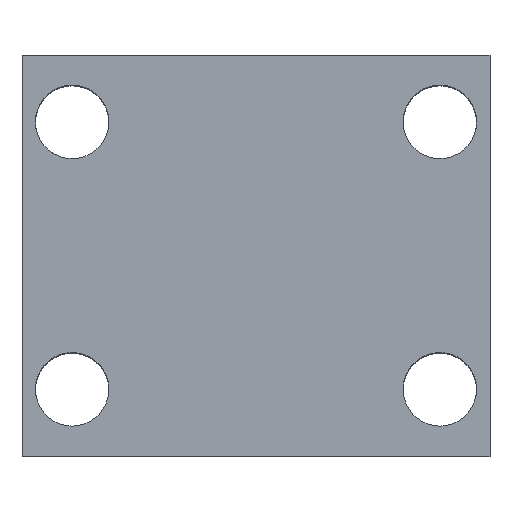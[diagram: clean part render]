
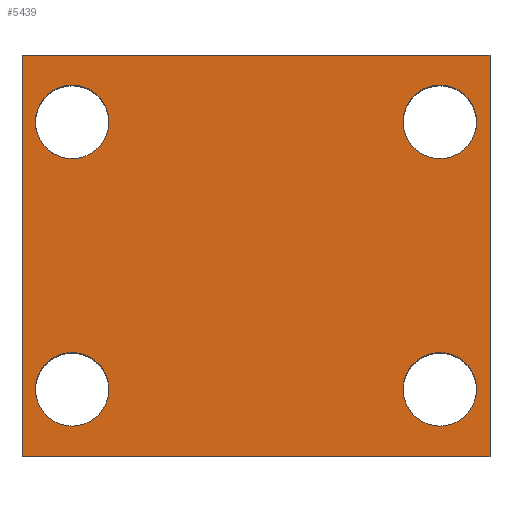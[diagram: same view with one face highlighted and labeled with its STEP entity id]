
A CAD part, top view. The second image highlights one B-rep face of the part: STEP entity #5439.
In plain terms, the highlighted planar face has unit normal (0, 0, 1).
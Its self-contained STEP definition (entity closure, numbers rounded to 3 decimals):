
#318 = CARTESIAN_POINT ( 'NONE',  ( -55., 100., 65. ) ) ;
#733 = EDGE_LOOP ( 'NONE', ( #1560, #10022 ) ) ;
#868 = VERTEX_POINT ( 'NONE', #9687 ) ;
#873 = EDGE_CURVE ( 'NONE', #5038, #17579, #1913, .T. ) ;
#953 = AXIS2_PLACEMENT_3D ( 'NONE', #13136, #4587, #14537 ) ;
#1448 = VECTOR ( 'NONE', #12365, 1000. ) ;
#1458 = EDGE_LOOP ( 'NONE', ( #9512, #9763, #7547, #3581 ) ) ;
#1560 = ORIENTED_EDGE ( 'NONE', *, *, #10710, .T. ) ;
#1802 = DIRECTION ( 'NONE',  ( -1., 0., 0. ) ) ;
#1864 = VERTEX_POINT ( 'NONE', #16735 ) ;
#1913 = LINE ( 'NONE', #8218, #1448 ) ;
#2441 = EDGE_CURVE ( 'NONE', #17895, #6840, #11305, .T. ) ;
#2859 = FACE_BOUND ( 'NONE', #733, .T. ) ;
#3000 = CARTESIAN_POINT ( 'NONE',  ( -55., 100., 65. ) ) ;
#3085 = ORIENTED_EDGE ( 'NONE', *, *, #2441, .T. ) ;
#3404 = CARTESIAN_POINT ( 'NONE',  ( 44., 100., 65. ) ) ;
#3470 = CARTESIAN_POINT ( 'NONE',  ( 70., 0., 65. ) ) ;
#3495 = EDGE_LOOP ( 'NONE', ( #15090, #8776 ) ) ;
#3581 = ORIENTED_EDGE ( 'NONE', *, *, #873, .T. ) ;
#3938 = EDGE_CURVE ( 'NONE', #4765, #868, #13944, .T. ) ;
#4046 = DIRECTION ( 'NONE',  ( 0., 0., -1. ) ) ;
#4240 = CARTESIAN_POINT ( 'NONE',  ( -70., 0., 65. ) ) ;
#4368 = DIRECTION ( 'NONE',  ( -1., 0., 0. ) ) ;
#4587 = DIRECTION ( 'NONE',  ( 0., 0., -1. ) ) ;
#4765 = VERTEX_POINT ( 'NONE', #14080 ) ;
#4846 = CARTESIAN_POINT ( 'NONE',  ( 55., 100., 65. ) ) ;
#4881 = DIRECTION ( 'NONE',  ( 1., 0., 0. ) ) ;
#5038 = VERTEX_POINT ( 'NONE', #17965 ) ;
#5055 = EDGE_LOOP ( 'NONE', ( #5444, #17940 ) ) ;
#5192 = CARTESIAN_POINT ( 'NONE',  ( -55., 20., 65. ) ) ;
#5196 = CARTESIAN_POINT ( 'NONE',  ( 66., 100., 65. ) ) ;
#5376 = VECTOR ( 'NONE', #5651, 1000. ) ;
#5439 = ADVANCED_FACE ( 'NONE', ( #9898, #13710, #17489, #2859, #6095 ), #15237, .F. ) ;
#5444 = ORIENTED_EDGE ( 'NONE', *, *, #13578, .T. ) ;
#5520 = AXIS2_PLACEMENT_3D ( 'NONE', #14962, #6417, #16400 ) ;
#5651 = DIRECTION ( 'NONE',  ( 1., 0., 0. ) ) ;
#5799 = CIRCLE ( 'NONE', #13384, 11. ) ;
#6095 = FACE_OUTER_BOUND ( 'NONE', #1458, .T. ) ;
#6243 = DIRECTION ( 'NONE',  ( -1., 0., 0. ) ) ;
#6285 = ORIENTED_EDGE ( 'NONE', *, *, #15454, .T. ) ;
#6302 = EDGE_CURVE ( 'NONE', #5038, #15324, #17000, .T. ) ;
#6417 = DIRECTION ( 'NONE',  ( 0., 0., -1. ) ) ;
#6585 = CARTESIAN_POINT ( 'NONE',  ( 70., 120., 65. ) ) ;
#6591 = DIRECTION ( 'NONE',  ( -1., 0., 0. ) ) ;
#6832 = EDGE_CURVE ( 'NONE', #15324, #7398, #8726, .T. ) ;
#6840 = VERTEX_POINT ( 'NONE', #14646 ) ;
#7398 = VERTEX_POINT ( 'NONE', #3470 ) ;
#7547 = ORIENTED_EDGE ( 'NONE', *, *, #6302, .F. ) ;
#7701 = AXIS2_PLACEMENT_3D ( 'NONE', #12583, #4046, #13989 ) ;
#8218 = CARTESIAN_POINT ( 'NONE',  ( -70., 120., 65. ) ) ;
#8226 = AXIS2_PLACEMENT_3D ( 'NONE', #4846, #14786, #6243 ) ;
#8455 = CARTESIAN_POINT ( 'NONE',  ( 55., 100., 65. ) ) ;
#8660 = CIRCLE ( 'NONE', #953, 11. ) ;
#8726 = LINE ( 'NONE', #13255, #13028 ) ;
#8749 = EDGE_CURVE ( 'NONE', #17579, #7398, #16729, .T. ) ;
#8776 = ORIENTED_EDGE ( 'NONE', *, *, #3938, .T. ) ;
#8889 = VERTEX_POINT ( 'NONE', #3404 ) ;
#9137 = CARTESIAN_POINT ( 'NONE',  ( -66., 20., 65. ) ) ;
#9408 = CIRCLE ( 'NONE', #13491, 11. ) ;
#9512 = ORIENTED_EDGE ( 'NONE', *, *, #8749, .T. ) ;
#9687 = CARTESIAN_POINT ( 'NONE',  ( 44., 20., 65. ) ) ;
#9763 = ORIENTED_EDGE ( 'NONE', *, *, #6832, .F. ) ;
#9898 = FACE_BOUND ( 'NONE', #13387, .T. ) ;
#9921 = DIRECTION ( 'NONE',  ( -1., 0., 0. ) ) ;
#10022 = ORIENTED_EDGE ( 'NONE', *, *, #13734, .T. ) ;
#10249 = DIRECTION ( 'NONE',  ( 0., 0., -1. ) ) ;
#10710 = EDGE_CURVE ( 'NONE', #8889, #11878, #12721, .T. ) ;
#10742 = AXIS2_PLACEMENT_3D ( 'NONE', #318, #10249, #1802 ) ;
#10964 = DIRECTION ( 'NONE',  ( 0., 0., -1. ) ) ;
#11278 = AXIS2_PLACEMENT_3D ( 'NONE', #8455, #18478, #9921 ) ;
#11305 = CIRCLE ( 'NONE', #10742, 11. ) ;
#11645 = EDGE_CURVE ( 'NONE', #868, #4765, #8660, .T. ) ;
#11663 = DIRECTION ( 'NONE',  ( 0., -1., 0. ) ) ;
#11878 = VERTEX_POINT ( 'NONE', #5196 ) ;
#12365 = DIRECTION ( 'NONE',  ( 0., -1., 0. ) ) ;
#12583 = CARTESIAN_POINT ( 'NONE',  ( 55., 20., 65. ) ) ;
#12721 = CIRCLE ( 'NONE', #8226, 11. ) ;
#12921 = CIRCLE ( 'NONE', #5520, 11. ) ;
#12924 = DIRECTION ( 'NONE',  ( 0., 0., -1. ) ) ;
#13028 = VECTOR ( 'NONE', #11663, 1000. ) ;
#13136 = CARTESIAN_POINT ( 'NONE',  ( 55., 20., 65. ) ) ;
#13255 = CARTESIAN_POINT ( 'NONE',  ( 70., 120., 65. ) ) ;
#13260 = VECTOR ( 'NONE', #4881, 1000. ) ;
#13384 = AXIS2_PLACEMENT_3D ( 'NONE', #5192, #15139, #6591 ) ;
#13387 = EDGE_LOOP ( 'NONE', ( #6285, #3085 ) ) ;
#13491 = AXIS2_PLACEMENT_3D ( 'NONE', #3000, #12924, #4368 ) ;
#13578 = EDGE_CURVE ( 'NONE', #13906, #1864, #12921, .T. ) ;
#13710 = FACE_BOUND ( 'NONE', #5055, .T. ) ;
#13734 = EDGE_CURVE ( 'NONE', #11878, #8889, #18264, .T. ) ;
#13822 = CARTESIAN_POINT ( 'NONE',  ( -70., 120., 65. ) ) ;
#13906 = VERTEX_POINT ( 'NONE', #9137 ) ;
#13944 = CIRCLE ( 'NONE', #7701, 11. ) ;
#13989 = DIRECTION ( 'NONE',  ( -1., 0., 0. ) ) ;
#14080 = CARTESIAN_POINT ( 'NONE',  ( 66., 20., 65. ) ) ;
#14108 = CARTESIAN_POINT ( 'NONE',  ( -44., 100., 65. ) ) ;
#14311 = AXIS2_PLACEMENT_3D ( 'NONE', #13822, #10964, #16660 ) ;
#14537 = DIRECTION ( 'NONE',  ( -1., 0., 0. ) ) ;
#14646 = CARTESIAN_POINT ( 'NONE',  ( -66., 100., 65. ) ) ;
#14786 = DIRECTION ( 'NONE',  ( 0., 0., -1. ) ) ;
#14824 = CARTESIAN_POINT ( 'NONE',  ( -70., 120., 65. ) ) ;
#14962 = CARTESIAN_POINT ( 'NONE',  ( -55., 20., 65. ) ) ;
#15090 = ORIENTED_EDGE ( 'NONE', *, *, #11645, .T. ) ;
#15139 = DIRECTION ( 'NONE',  ( 0., 0., -1. ) ) ;
#15237 = PLANE ( 'NONE',  #14311 ) ;
#15324 = VERTEX_POINT ( 'NONE', #6585 ) ;
#15454 = EDGE_CURVE ( 'NONE', #6840, #17895, #9408, .T. ) ;
#16400 = DIRECTION ( 'NONE',  ( -1., 0., 0. ) ) ;
#16660 = DIRECTION ( 'NONE',  ( -1., 0., 0. ) ) ;
#16729 = LINE ( 'NONE', #4240, #5376 ) ;
#16735 = CARTESIAN_POINT ( 'NONE',  ( -44., 20., 65. ) ) ;
#16958 = EDGE_CURVE ( 'NONE', #1864, #13906, #5799, .T. ) ;
#17000 = LINE ( 'NONE', #14824, #13260 ) ;
#17489 = FACE_BOUND ( 'NONE', #3495, .T. ) ;
#17579 = VERTEX_POINT ( 'NONE', #18265 ) ;
#17895 = VERTEX_POINT ( 'NONE', #14108 ) ;
#17940 = ORIENTED_EDGE ( 'NONE', *, *, #16958, .T. ) ;
#17965 = CARTESIAN_POINT ( 'NONE',  ( -70., 120., 65. ) ) ;
#18264 = CIRCLE ( 'NONE', #11278, 11. ) ;
#18265 = CARTESIAN_POINT ( 'NONE',  ( -70., 0., 65. ) ) ;
#18478 = DIRECTION ( 'NONE',  ( 0., 0., -1. ) ) ;
